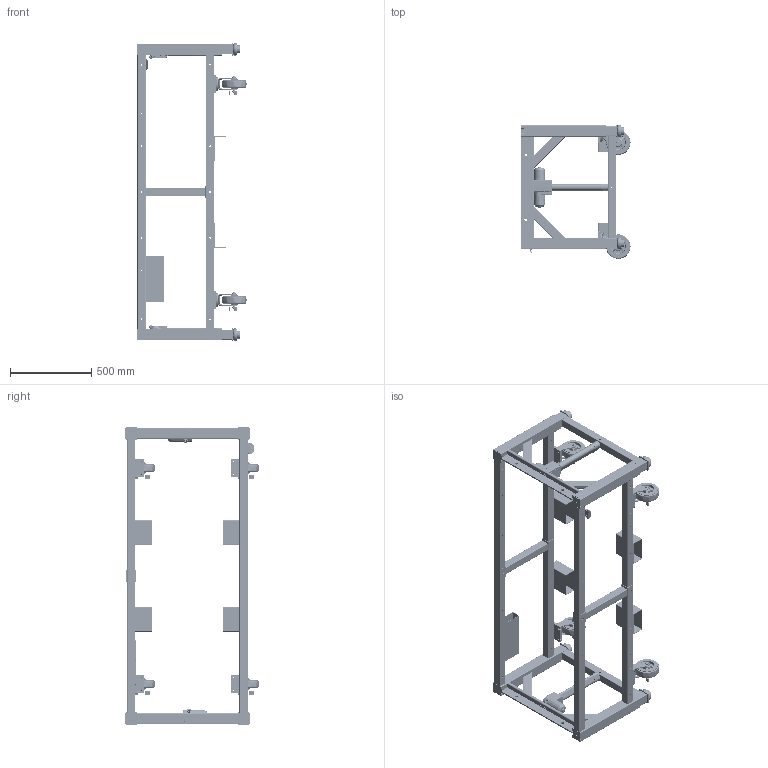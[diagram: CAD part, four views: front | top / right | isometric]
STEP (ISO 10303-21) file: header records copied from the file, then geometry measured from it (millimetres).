
FILE_DESCRIPTION (( 'STEP AP214' ), '1' );
FILE_NAME ('MB1200 72INX30INX26.5IN.STEP', '2020-01-21T12:52:45', ( '' ), ( '' ), 'SwSTEP 2.0', 'SolidWorks 2019', '' );
FILE_SCHEMA (( 'AUTOMOTIVE_DESIGN' ));
Length unit declared in the file: millimetre
Products named in the file (2): MB1200 72INX30INX26.5IN
Bounding box: 672.24 x 825.07 x 1835 mm (x, y, z)
Surface area: 8798596.8 mm2 (no closed solid volume)
Topology: 0 solids, 157 shells, 5686 faces, 15313 edges, 10065 vertices
Faces by surface type: plane 2896, cylinder 1646, bspline 654, cone 386, torus 92, sphere 12
Full cylindrical faces by diameter (mm): 1.575 x8, 1.778 x8, 3 x4, 3.3 x8, 4 x2, 4.039 x4, 4.2 x6, 4.252 x8, 4.5 x2, 4.521 x8, 4.6 x1, 4.762 x4, 4.763 x4, 5 x52, 6 x10, 6.35 x4, 6.4 x8, 6.647 x4, 6.8 x23, 7 x2, 7.117 x8, 7.5 x2, 7.938 x4, 8 x2, 8.5 x4, 9 x8, 9.525 x8, 9.7 x4, 10.3 x4, 10.5 x42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
Entity records: 294913 total; most frequent: CARTESIAN_POINT 97840, ORIENTED_EDGE 27948, DIRECTION 25103, EDGE_CURVE 14146, VERTEX_POINT 9739, AXIS2_PLACEMENT_3D 8743, LINE 7617, VECTOR 7617
